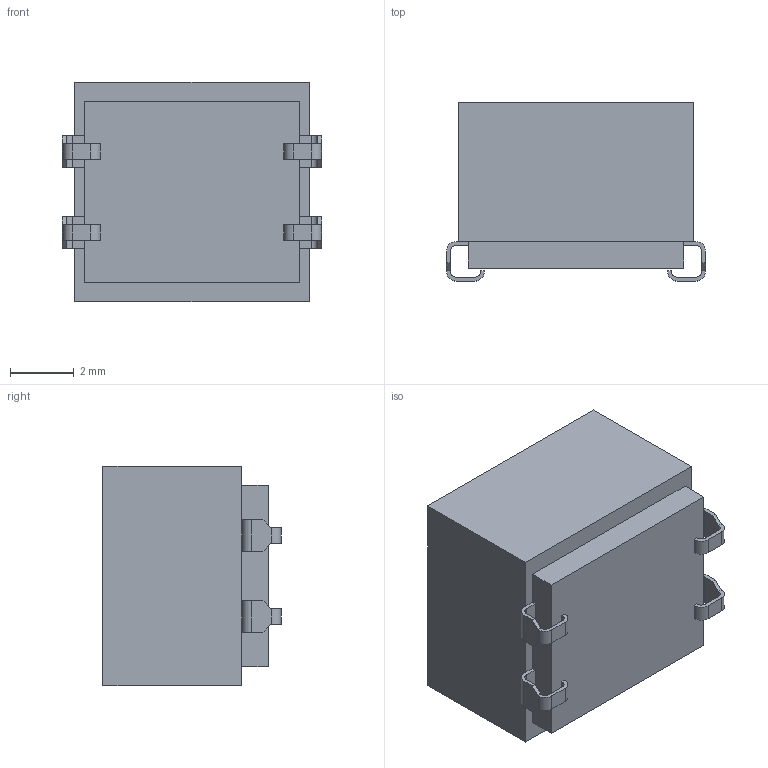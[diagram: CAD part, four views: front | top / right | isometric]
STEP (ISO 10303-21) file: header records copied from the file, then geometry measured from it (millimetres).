
FILE_DESCRIPTION (( 'STEP AP214' ), '1' );
FILE_NAME ('90HBJ02.STEP', '2011-02-01T06:31:28', ( 'vpeshkov' ), ( 'cad-design.ru' ), 'SwSTEP 2.0', 'SolidWorks 2009', '' );
FILE_SCHEMA (( 'AUTOMOTIVE_DESIGN' ));
Length unit declared in the file: millimetre
Products named in the file (1): 90HBJ02
Bounding box: 8.13 x 5.59 x 6.9 mm (x, y, z)
Volume: 245.7 mm3; surface area: 298.7 mm2
Topology: 1 solids, 1 shells, 169 faces, 466 edges, 308 vertices
Faces by surface type: plane 122, cylinder 28, bspline 19
Entity records: 8804 total; most frequent: CARTESIAN_POINT 3017, ORIENTED_EDGE 932, DIRECTION 786, EDGE_CURVE 466, VECTOR 372, LINE 372, VERTEX_POINT 308, AXIS2_PLACEMENT_3D 207
